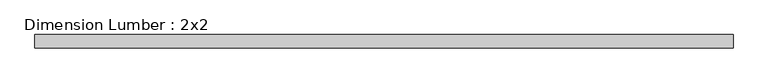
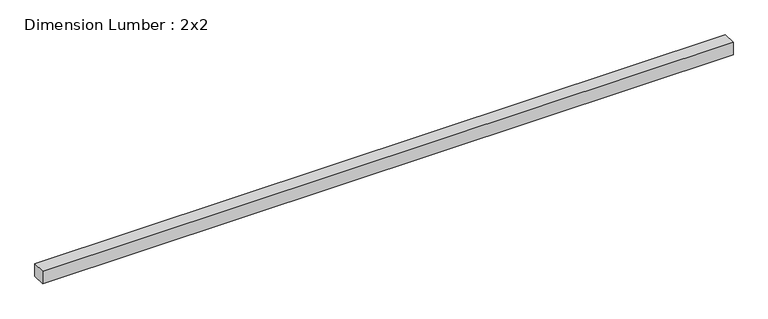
"""IFC4 building model written with IfcOpenShell, lengths in millimetres: beam geometry, Dimension Lumber : 2x2."""

from ifc_helpers import new_model, si_unit, frame, origin, place, context, project, spatial, polyline, outline, extrude, source, transform, mapped, element, save


def dimension_lumber_2x2_fbeded5b(model_context):
    return source(origin(), model_context, "Body", "SweptSolid", [
        extrude(outline(polyline([(996.95, 19.05), (996.95, -19.05), (-996.95, -19.05), (-996.95, 19.05), (996.95, 19.05)])), frame((0.0, 0.0, -19.05), z_axis=(0.0, 0.0, 1.0), x_axis=(1.0, 0.0, 0.0)), (0.0, 0.0, 1.0), 38.1),
    ])


if __name__ == "__main__":
    model = new_model("IFC4")
    model_context = context("Model", 3, world=origin())
    ifc_project = project(units=[si_unit("LENGTHUNIT", "METRE", prefix="MILLI")], contexts=[model_context])
    site = spatial("IfcSite", under=ifc_project)
    building = spatial("IfcBuilding", under=site)
    placement = place(None, origin())
    dimension_lumber_2x2_shape = dimension_lumber_2x2_fbeded5b(model_context)
    element("IfcBeam", 1, ObjectType="Dimension Lumber : 2x2", at=placement, inside=building, context=model_context, shape_type="MappedRepresentation", body=[
        mapped(dimension_lumber_2x2_shape, transform((0.0, 0.0, 0.0), x_axis=(1.0, 0.0, 0.0), y_axis=(0.0, 1.0, 0.0), z_axis=(0.0, 0.0, 1.0))),
    ])
    save(model, "model.ifc")
